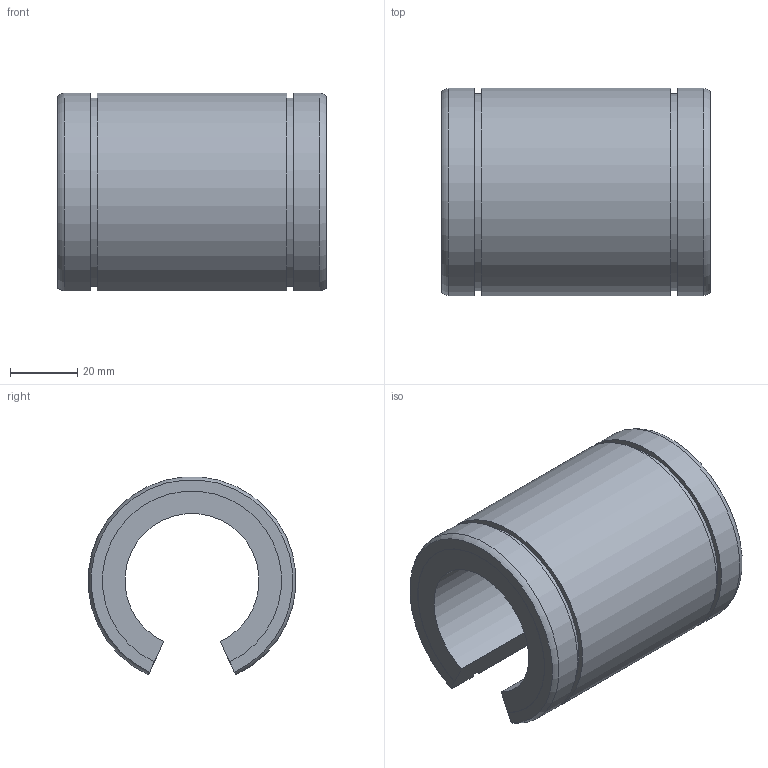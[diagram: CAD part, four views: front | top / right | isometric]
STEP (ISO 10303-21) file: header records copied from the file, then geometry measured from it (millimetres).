
FILE_DESCRIPTION((''),'2;1');
FILE_NAME('D:\製品 (図面)\カタログ用3D\リニアベアリング関連\STEP形式\LE-OP\LE40-OP.stp','2010-06-03T09:10:18',('Tsuchiya'),(''),'Autodesk Inventor 10','Autodesk Inventor 10','');
FILE_SCHEMA(('AUTOMOTIVE_DESIGN { 1 0 10303 214 1 1 1 1 }'));
Length unit declared in the file: millimetre
Products named in the file (1): LE40-OP
Bounding box: 80 x 61.77 x 59 mm (x, y, z)
Volume: 120073.9 mm3; surface area: 27591 mm2
Topology: 1 solids, 1 shells, 20 faces, 54 edges, 36 vertices
Faces by surface type: plane 10, cylinder 8, torus 2
Entity records: 687 total; most frequent: CARTESIAN_POINT 147, DIRECTION 110, ORIENTED_EDGE 108, EDGE_CURVE 54, AXIS2_PLACEMENT_3D 39, VERTEX_POINT 36, VECTOR 32, LINE 32
